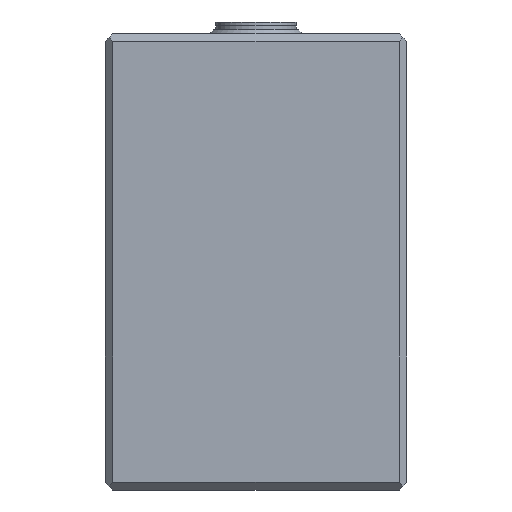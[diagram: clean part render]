
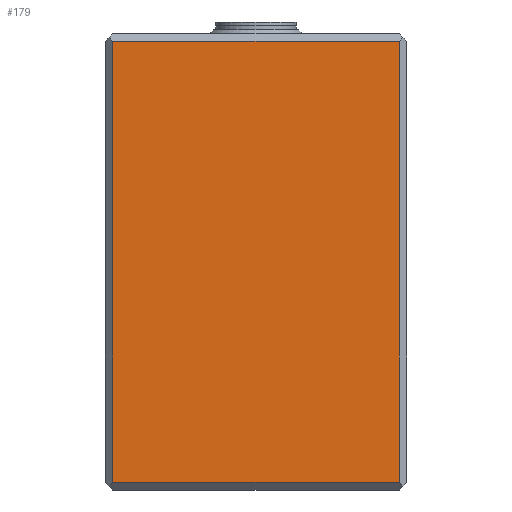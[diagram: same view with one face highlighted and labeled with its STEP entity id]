
A CAD part, front view. The second image highlights one B-rep face of the part: STEP entity #179.
In plain terms, the highlighted planar face has unit normal (0, -1, 0).
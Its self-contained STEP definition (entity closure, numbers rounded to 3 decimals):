
#179 = ADVANCED_FACE( '', ( #464 ), #465, .F. );
#464 = FACE_OUTER_BOUND( '', #825, .T. );
#465 = PLANE( '', #826 );
#825 = EDGE_LOOP( '', ( #1694, #1695, #1696, #1697 ) );
#826 = AXIS2_PLACEMENT_3D( '', #1698, #1699, #1700 );
#1694 = ORIENTED_EDGE( '', *, *, #2295, .F. );
#1695 = ORIENTED_EDGE( '', *, *, #2330, .F. );
#1696 = ORIENTED_EDGE( '', *, *, #2289, .T. );
#1697 = ORIENTED_EDGE( '', *, *, #2086, .T. );
#1698 = CARTESIAN_POINT( '', ( -18.5, -94., 29.5 ) );
#1699 = DIRECTION( '', ( 0., 1., 0. ) );
#1700 = DIRECTION( '', ( 0., 0., 1. ) );
#2086 = EDGE_CURVE( '', #2441, #2438, #2442, .T. );
#2289 = EDGE_CURVE( '', #2792, #2441, #2793, .T. );
#2295 = EDGE_CURVE( '', #2802, #2438, #2804, .T. );
#2330 = EDGE_CURVE( '', #2792, #2802, #2859, .T. );
#2438 = VERTEX_POINT( '', #3037 );
#2441 = VERTEX_POINT( '', #3041 );
#2442 = LINE( '', #3042, #3043 );
#2792 = VERTEX_POINT( '', #3646 );
#2793 = LINE( '', #3647, #3648 );
#2802 = VERTEX_POINT( '', #3661 );
#2804 = LINE( '', #3664, #3665 );
#2859 = LINE( '', #3748, #3749 );
#3037 = CARTESIAN_POINT( '', ( -18.5, -94., -28.5 ) );
#3041 = CARTESIAN_POINT( '', ( -18.5, -94., 28.5 ) );
#3042 = CARTESIAN_POINT( '', ( -18.5, -94., 29.5 ) );
#3043 = VECTOR( '', #3925, 1000. );
#3646 = CARTESIAN_POINT( '', ( 18.5, -94., 28.5 ) );
#3647 = CARTESIAN_POINT( '', ( 50., -94., 28.5 ) );
#3648 = VECTOR( '', #4264, 1000. );
#3661 = CARTESIAN_POINT( '', ( 18.5, -94., -28.5 ) );
#3664 = CARTESIAN_POINT( '', ( 50., -94., -28.5 ) );
#3665 = VECTOR( '', #4270, 1000. );
#3748 = CARTESIAN_POINT( '', ( 18.5, -94., 29.5 ) );
#3749 = VECTOR( '', #4317, 1000. );
#3925 = DIRECTION( '', ( 0., 0., -1. ) );
#4264 = DIRECTION( '', ( -1., 0., 0. ) );
#4270 = DIRECTION( '', ( -1., 0., 0. ) );
#4317 = DIRECTION( '', ( 0., 0., -1. ) );
